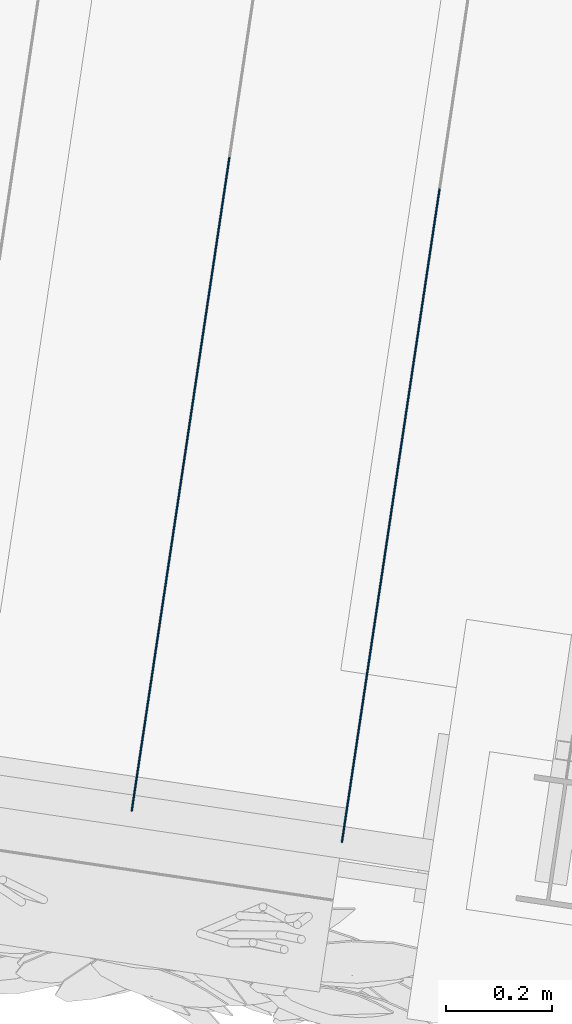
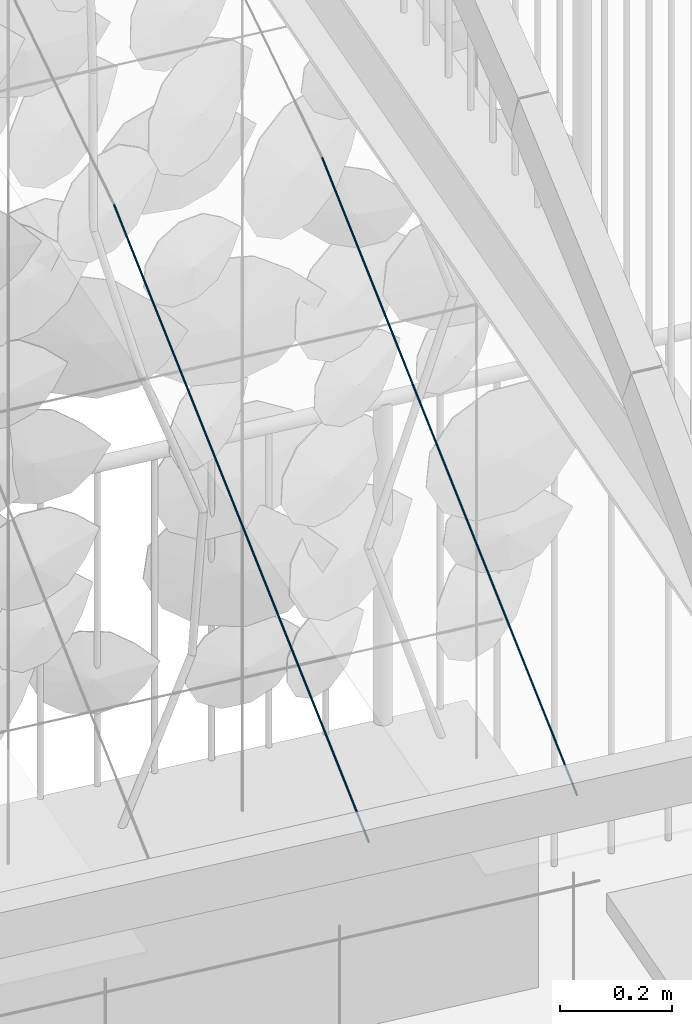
# One storey, part 13 of 142: 2 members, 1 element without a shape of its own.
"""IFC4 building model written with IfcOpenShell, lengths in metres."""

from ifc_helpers import new_model, si_unit, direction, frame, origin_with_axes, place, context, subcontext, project, spatial, circle, extrude, material, material_profile, profile_set, profile_usage, type_object, element, aggregate, save


model = new_model("IFC4")

# Units and contexts
model_context = context("Model", 3, precision=1e-05, world=origin_with_axes(), true_north=direction((0.0, 1.0)))
body_context = subcontext(model_context, "Body", "Model", "MODEL_VIEW")
ifc_project = project(units=[si_unit("AREAUNIT", "SQUARE_METRE"), si_unit("VOLUMEUNIT", "CUBIC_METRE"), si_unit("LENGTHUNIT", "METRE")], contexts=[model_context])

# Site, building, storey
site_placement = place(None, origin_with_axes())
site = spatial("IfcSite", under=ifc_project, at=site_placement, Name="Lares · Rua das Mercês · artigo 4771")
building_placement = place(site_placement, frame((15.0, 9.7, 14.65), z_axis=(0.0, 0.0, 1.0), x_axis=(0.989015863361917, -0.147809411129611, 0.0)))
building = spatial("IfcBuilding", under=site, at=building_placement, Name="Casa Sobreposta")
storey_placement = place(building_placement, origin_with_axes())
storey = spatial("IfcBuildingStorey", under=building, at=storey_placement, Name="00 · Habitação e estacionamento", Elevation=14.65)

# Assembly, members
assembly_placement = place(storey_placement, origin_with_axes())
assembly = element("IfcElementAssembly", 1, at=assembly_placement, inside=storey, Name="Pérgola · prolongamento da estufa 6 m", ObjectType="PERGOLA_GREENHOUSE_EXTENSION", PredefinedType="USERDEFINED")
ifc_material = material(Name="Aço galvanizado / Stahl verzinkt", Category="steel")
ifc_material_profile = material_profile(ifc_material, circle(Radius=0.002))
ifc_profile_set = profile_set([ifc_material_profile], Name="D0.004")
ifc_profile_usage_1 = profile_usage(ifc_profile_set)
member_type = type_object("IfcMemberType", Name="D0.004 / galvanized", PredefinedType="NOTDEFINED", material=ifc_profile_set)
member_1_placement = place(assembly_placement, frame((-3.8, -1.5, 6.23430000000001), z_axis=(0.0, 0.905876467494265, 0.423541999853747), x_axis=(1.0, 0.0, 0.0)))
member_1 = element("IfcMember", 2, at=member_1_placement, type_object=member_type, material=ifc_profile_usage_1, Name="Pérgola · fio para trepadeiras", context=body_context, shape_type="SweptSolid", body=[
    extrude(circle(Radius=0.002), origin_with_axes(), (0.0, 0.0, 1.0), 1.37271642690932),
])
ifc_profile_usage_2 = profile_usage(ifc_profile_set)
member_2_placement = place(assembly_placement, frame((-3.4, -1.5, 6.23430000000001), z_axis=(0.0, 0.905876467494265, 0.423541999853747), x_axis=(1.0, 0.0, 0.0)))
member_2 = element("IfcMember", 3, at=member_2_placement, type_object=member_type, material=ifc_profile_usage_2, Name="Pérgola · fio para trepadeiras", context=body_context, shape_type="SweptSolid", body=[
    extrude(circle(Radius=0.002), origin_with_axes(), (0.0, 0.0, 1.0), 1.37271642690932),
])
aggregate(assembly, [member_1, member_2])

save(model, "model.ifc")
